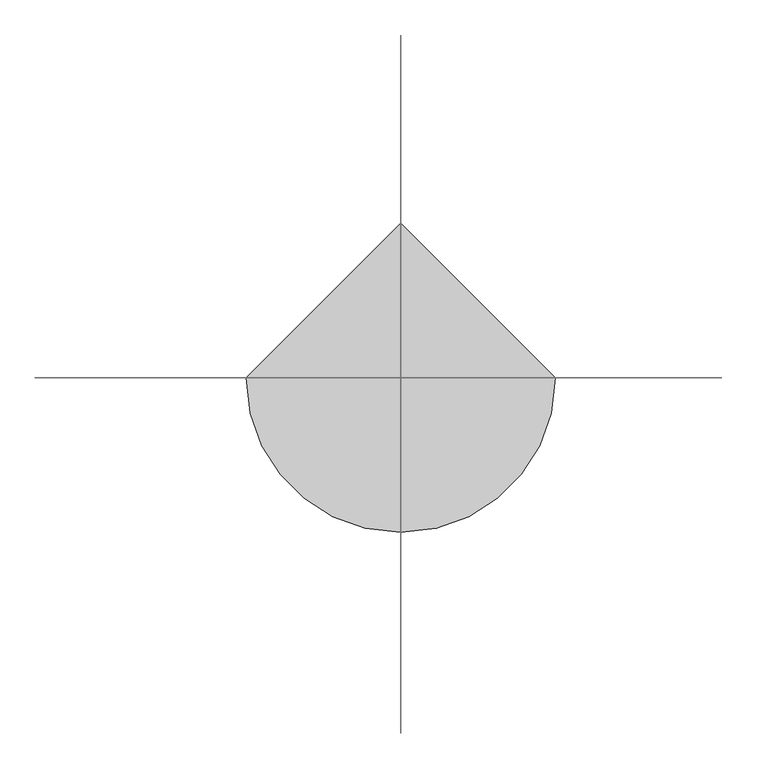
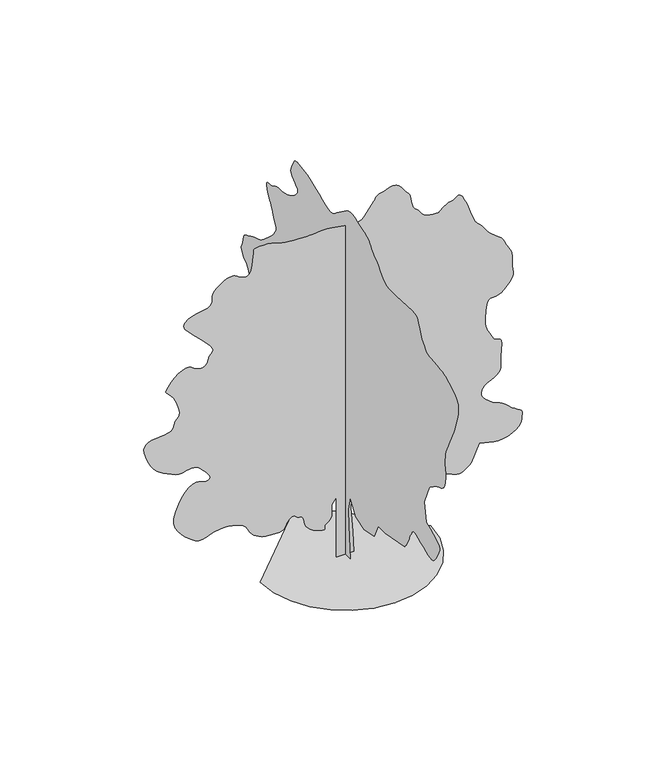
"""IFC4 building model written with IfcOpenShell, lengths in millimetres: geographic element geometry, RPC strom, listnatý : Dub šarlatový, 12,5 m."""

from ifc_helpers import new_model, si_unit, origin, place, context, project, spatial, triangles, source, transform, mapped, element, save


def geographic_element_93c3b281(model_context):
    return source(origin(), model_context, "Body", "Tessellation", [
        triangles([(0.015858, 281.3065757, 0.0), (0.015858, -269.8684294, 0.0), (0.015858, -180.9694589, 1049.0087894), (0.015858, -163.1892034, 1546.8425011), (0.015858, -269.8684294, 2009.1186447), (0.015858, -554.3465049, 1546.8425011), (0.015858, -1016.6202141, 1404.6046715), (0.015858, -1550.0141098, 1529.0636444), (0.015858, -1763.3720169, 1973.5584606), (0.015858, -2136.749081, 1973.5584606), (0.015858, -3167.9766884, 2169.1376564), (0.015858, -3205.9200119, 2214.9085545), (0.015858, -3242.9439148, 2260.9897533), (0.015858, -3278.0833397, 2307.6915539), (0.015858, -3310.4191566, 2355.333268), (0.015858, -3339.0316544, 2404.2158947), (0.015858, -3362.9790298, 2454.6615074), (0.015858, -3381.3415718, 2506.9455254), (0.015858, -3399.1756577, 2560.8152023), (0.015858, -3421.6748657, 2615.6042999), (0.015858, -3448.0584297, 2671.1747452), (0.015858, -3477.5441299, 2727.3657921), (0.015858, -3509.3744545, 2784.016404), (0.015858, -3542.74422, 2840.9887985), (0.015858, -3576.9182968, 2898.0989754), (0.015858, -3593.1896873, 2916.5536629), (0.015858, -3615.6888954, 2931.4460678), (0.015858, -3650.6216469, 2939.1679802), (0.015858, -3704.2157593, 2936.1574081), (0.015858, -3782.6993408, 2918.8517784), (0.015858, -3892.277536, 2883.6434624), (0.015858, -4039.1784531, 2826.9928505), (0.015858, -4194.2838112, 2760.32192), (0.015858, -4326.3615051, 2700.8214821), (0.015858, -4438.5366348, 2653.4328049), (0.015858, -4533.9119179, 2623.1654663), (0.015858, -4615.6127449, 2614.9836983), (0.015858, -4686.7191605, 2633.8520233), (0.015858, -4750.3792282, 2684.7570557), (0.015858, -4814.6139702, 2764.9414055), (0.015858, -4881.0090454, 2862.5459129), (0.015858, -4943.0604904, 2968.8606445), (0.015858, -4994.2184143, 3075.1753761), (0.015858, -5027.9558899, 3172.7798836), (0.015858, -5037.7692444, 3252.9871971), (0.015858, -5017.0856232, 3307.0408745), (0.015858, -4966.5480103, 3347.7418785), (0.015858, -4893.6030441, 3393.0853317), (0.015858, -4802.0199715, 3442.3358139), (0.015858, -4695.475312, 3494.688723), (0.015858, -4577.7615669, 3549.3859657), (0.015858, -4452.5785103, 3605.6229401), (0.015858, -4323.6724251, 3662.6412621), (0.015858, -4216.9899834, 4267.1598862), (0.015858, -4483.6731239, 4889.4434143), (0.015858, -4492.0845291, 4901.3252472), (0.015858, -4505.1383835, 4915.8266876), (0.015858, -4527.5457367, 4935.6371063), (0.015858, -4563.9263649, 4963.3766922), (0.015858, -4618.968354, 5001.6644714), (0.015858, -4697.35979, 5053.1903961), (0.015858, -4803.7204491, 5120.5961655), (0.015858, -4919.1131149, 5181.6592987), (0.015858, -5021.4289627, 5221.556282), (0.015858, -5110.6909561, 5254.0066269), (0.015858, -5186.8996765, 5292.6856613), (0.015858, -5250.0307068, 5351.2663879), (0.015858, -5300.1084641, 5443.4247162), (0.015858, -5337.1096939, 5582.8563217), (0.015858, -5358.5287354, 5719.806102), (0.015858, -5364.6882431, 5807.6205093), (0.015858, -5359.9769028, 5864.6385406), (0.015858, -5348.7153809, 5909.2236099), (0.015858, -5335.2941071, 5959.7152954), (0.015858, -5324.0558395, 6034.452594), (0.015858, -5319.3444992, 6151.8215927), (0.015858, -5320.9996307, 6281.3020615), (0.015858, -5328.2613968, 6388.6972504), (0.015858, -5344.533078, 6486.7842865), (0.015858, -5373.2377213, 6588.2728592), (0.015858, -5417.8227905, 6705.9406769), (0.015858, -5481.689241, 6852.542775), (0.015858, -5568.239772, 7040.8115158), (0.015858, -5650.4231277, 7210.9929886), (0.015858, -5705.2122253, 7313.6768372), (0.015858, -5742.2593826, 7377.1758682), (0.015858, -5771.2395905, 7429.7819595), (0.015858, -5801.783075, 7499.8079178), (0.015858, -5843.4950638, 7615.5682938), (0.015858, -5906.0749649, 7805.3305481), (0.015858, -5973.50457, 8024.8543579), (0.015858, -6018.8709869, 8213.9044464), (0.015858, -6035.3031235, 8376.8241531), (0.015858, -6015.9519791, 8517.9794907), (0.015858, -5954.0156433, 8641.7143799), (0.015858, -5842.6218613, 8752.3727417), (0.015858, -5674.9222137, 8854.3438431), (0.015858, -5512.2094711, 8938.1590759), (0.015858, -5405.182283, 8995.8671814), (0.015858, -5331.1112228, 9033.9479965), (0.015858, -5267.2906998, 9058.998793), (0.015858, -5191.0360519, 9077.499408), (0.015858, -5079.6422699, 9095.9994415), (0.015858, -4910.4031815, 9121.050238), (0.015858, -4728.8680412, 9140.7914749), (0.015858, -4588.0804138, 9148.4218231), (0.015858, -4476.5258858, 9157.8904312), (0.015858, -4382.713298, 9183.2394653), (0.015858, -4295.1058548, 9238.4419098), (0.015858, -4202.2126877, 9337.5172577), (0.015858, -4092.5196739, 9494.4158203), (0.015858, -3996.7304626, 9666.918663), (0.015858, -3940.1260689, 9805.5456665), (0.015858, -3903.124839, 9913.3542023), (0.015858, -3866.1009361, 9993.492334), (0.015858, -3809.4962517, 10049.0633606), (0.015858, -3713.7073311, 10083.1682556), (0.015858, -3559.1304291, 10098.9335724), (0.015858, -2705.6938591, 10045.5926422), (0.015858, -2548.3819496, 10048.3506134), (0.015858, -2420.3032848, 10047.983194), (0.015858, -2311.4836189, 10054.4641937), (0.015858, -2212.012801, 10077.7220764), (0.015858, -2111.9170212, 10127.7539062), (0.015858, -2001.2471775, 10214.4648926), (0.015858, -1870.0499531, 10347.8520996), (0.015858, -1743.6236584, 10482.5729462), (0.015858, -1648.9170845, 10574.3626923), (0.015858, -1578.4726925, 10634.7590057), (0.015858, -1524.8211708, 10675.2542084), (0.015858, -1480.502655, 10707.3371338), (0.015858, -1438.0481243, 10742.5221954), (0.015858, -1389.9972782, 10792.3470612), (0.015858, -1343.8631756, 10851.1806793), (0.015858, -1306.1244907, 10905.9703583), (0.015858, -1267.7675297, 10957.0358459), (0.015858, -1219.7672619, 11004.6550323), (0.015858, -1153.1057058, 11049.1941742), (0.015858, -1058.7623365, 11090.9288361), (0.015858, -927.7212799, 11130.1589996), (0.015858, -780.6112186, 11173.3889191), (0.015858, -643.4522942, 11221.2825073), (0.015858, -515.3115692, 11265.4542297), (0.015858, -395.2605031, 11297.4918091), (0.015858, -282.361435, 11309.0050598), (0.015858, -175.6817548, 11291.5851929), (0.015858, -74.2902328, 11236.8420227), (0.015858, 459.1044986, 10845.6879913), (0.015858, 516.8490844, 10793.1284088), (0.015858, 572.7298305, 10745.2336578), (0.015858, 633.5838558, 10706.647641), (0.015858, 706.2597977, 10682.0793732), (0.015858, 797.5949203, 10676.172757), (0.015858, 914.4330648, 10693.5937866), (0.015858, 1063.6184355, 10739.006131), (0.015858, 1232.9152966, 10806.4345734), (0.015858, 1403.4556137, 10882.275293), (0.015858, 1572.1296204, 10959.6787079), (0.015858, 1735.8280586, 11031.7731445), (0.015858, 1891.4415253, 11091.7566925), (0.015858, 2035.8558208, 11132.7565155), (0.015858, 2165.966193, 11147.9474487), (0.015858, 2284.3073708, 11156.243454), (0.015858, 2394.2417942, 11175.1120697), (0.015858, 2493.9375984, 11195.5201263), (0.015858, 2581.4761505, 11208.4821259), (0.015858, 2655.0414276, 11204.9660614), (0.015858, 2712.7262787, 11175.9399261), (0.015858, 2752.6918625, 11112.3717133), (0.015858, 2788.4059616, 11032.5091461), (0.015858, 2829.4057846, 10958.8520142), (0.015858, 2867.9237823, 10888.9179108), (0.015858, 2896.1915337, 10820.2244293), (0.015858, 2906.395562, 10750.3124176), (0.015858, 2890.7907005, 10676.6552856), (0.015858, 2841.6094002, 10596.7706268), (0.015858, 2766.3433548, 10523.5727692), (0.015858, 2685.7683311, 10466.2320831), (0.015858, 2612.0649811, 10416.682782), (0.015858, 2557.3221016, 10366.8125702), (0.015858, 2533.6965088, 10308.5533356), (0.015858, 2553.2772903, 10233.8148743), (0.015858, 2628.2445168, 10134.4872162), (0.015858, 2731.7553497, 10035.5269775), (0.015858, 2829.3598572, 9963.340686), (0.015858, 2921.6786407, 9911.9519623), (0.015858, 3009.3320114, 9875.5262787), (0.015858, 3092.9405708, 9848.0860931), (0.015858, 3173.1475937, 9823.7933899), (0.015858, 3250.5280449, 9796.6752777), (0.015858, 3327.8166412, 9775.7846924), (0.015858, 3407.2882439, 9768.8897644), (0.015858, 3488.9204704, 9768.223526), (0.015858, 3572.7357033, 9765.9934296), (0.015858, 3658.7342331, 9754.43367), (0.015858, 3746.9163506, 9725.7522812), (0.015858, 3837.2585106, 9672.2270599), (0.015858, 3930.6344971, 9624.6776367), (0.015858, 4022.4245338, 9607.6251892), (0.015858, 4104.5852165, 9603.6260147), (0.015858, 4169.0266319, 9595.2835007), (0.015858, 4207.6364845, 9565.1771988), (0.015858, 4212.3478249, 9495.8634064), (0.015858, 4175.0939941, 9369.9681839), (0.015858, 4120.0290413, 9237.4768524), (0.015858, 4074.317878, 9148.214859), (0.015858, 4034.1912575, 9084.439682), (0.015858, 3995.949115, 9028.4553085), (0.015858, 3955.8224945, 8962.5203796), (0.015858, 3910.0883675, 8868.9144653), (0.015858, 3855.046669, 8729.8962067), (0.015858, 3796.8789986, 8593.1533905), (0.015858, 3746.824205, 8506.7871506), (0.015858, 3708.5593895, 8453.6985306), (0.015858, 3685.8532173, 8416.7897369), (0.015858, 3682.428717, 8378.961232), (0.015858, 3702.0324623, 8323.0692947), (0.015858, 3748.3642273, 8232.0603149), (0.015858, 3830.846402, 8111.427562), (0.015858, 3946.5838142, 7983.3493332), (0.015858, 4081.0055511, 7855.569342), (0.015858, 4219.4491356, 7735.8789734), (0.015858, 4347.3439453, 7632.0463577), (0.015858, 4450.0275032, 7551.8622986), (0.015858, 4512.9062233, 7503.0710907), (0.015858, 4568.7295601, 7472.551442), (0.015858, 4652.5447929, 7441.7091385), (0.015858, 4753.1601631, 7410.2471054), (0.015858, 4859.3830399, 7377.8421066), (0.015858, 4959.99841, 7344.1964859), (0.015858, 5043.8136429, 7309.0114243), (0.015858, 5099.6369797, 7271.9415939), (0.015858, 5146.3823822, 7241.1452179), (0.015858, 5205.9054932, 7219.3814301), (0.015858, 5271.3125473, 7198.2379532), (0.015858, 5335.7998901, 7169.3036728), (0.015858, 5392.5191025, 7124.2128204), (0.015858, 5434.5996735, 7054.5316086), (0.015858, 5455.2373672, 6951.8942688), (0.015858, 5472.1287781, 6848.796492), (0.015858, 5501.1554947, 6775.8747803), (0.015858, 5532.6634552, 6721.9129578), (0.015858, 5557.0474319, 6675.7192657), (0.015858, 5564.6085983, 6626.1240372), (0.015858, 5545.740564, 6561.8895859), (0.015858, 5490.7904297, 6471.8462448), (0.015858, 5422.5800583, 6387.5019745), (0.015858, 5367.4229599, 6337.0794708), (0.015858, 5320.9763763, 6304.3762344), (0.015858, 5278.8731323, 6273.212439), (0.015858, 5236.7931427, 6227.4326752), (0.015858, 5190.3465591, 6150.8792084), (0.015858, 5135.1900421, 6027.3512833), (0.015858, 5075.0687119, 5903.6158127), (0.015858, 5019.9121948, 5825.6153412), (0.015858, 4974.7068146, 5775.9050034), (0.015858, 4944.439476, 5737.0655136), (0.015858, 4934.074411, 5691.7217697), (0.015858, 4948.5758514, 5622.4085587), (0.015858, 4992.954538, 5511.7501968), (0.015858, 5051.9032654, 5390.7035156), (0.015858, 5107.4045288, 5296.7301819), (0.015858, 5160.4472214, 5222.0388107), (0.015858, 5211.9039642, 5158.8385986), (0.015858, 5262.7630692, 5099.3840881), (0.015858, 5313.920993, 5035.8844757), (0.015858, 5366.3201202, 4960.5727936), (0.015858, 5427.1303619, 4886.2947693), (0.015858, 5497.8917404, 4825.691201), (0.015858, 5571.1355255, 4770.69543), (0.015858, 5639.4150787, 4713.1942886), (0.015858, 5695.2384155, 4645.1446632), (0.015858, 5731.1588974, 4558.4107132), (0.015858, 5739.7083755, 4444.9484528), (0.015858, 5746.9015411, 4355.8472054), (0.015858, 5773.3999237, 4326.45336), (0.015858, 5803.6213348, 4325.0514107), (0.015858, 5822.0300949, 4319.9264328), (0.015858, 5813.0440155, 4279.3402473), (0.015858, 5761.1733444, 4171.577639), (0.015858, 5650.8138016, 3964.9004288), (0.015858, 5535.4214264, 3733.0811485), (0.015858, 5465.7628876, 3562.5546387), (0.015858, 5422.2120575, 3440.5202271), (0.015858, 5385.2108276, 3354.2688057), (0.015858, 5335.1330704, 3291.0223755), (0.015858, 5252.3980042, 3238.0488647), (0.015858, 5117.4248474, 3182.5932381), (0.015858, 4961.5837784, 3137.5945313), (0.015858, 4824.4273247, 3118.7262062), (0.015858, 4698.4629204, 3117.2783295), (0.015858, 4576.244799, 3124.5406769), (0.015858, 4450.2803947, 3131.7800606), (0.015858, 4313.1236504, 3130.3321838), (0.015858, 4157.3058357, 3111.4638588), (0.015858, 4001.9016586, 3094.5721573), (0.015858, 3867.6406677, 3098.203331), (0.015858, 3749.5592125, 3112.4062431), (0.015858, 3642.6698067, 3127.2297569), (0.015858, 3542.0087997, 3132.7224449), (0.015858, 3442.5887054, 3118.9331703), (0.015858, 3339.4223282, 3075.9107964), (0.015858, 3240.6917267, 3030.1766693), (0.015858, 3159.0368271, 3006.2292938), (0.015858, 3096.3647804, 2990.9924332), (0.015858, 3054.5376823, 2971.4116516), (0.015858, 3035.4164658, 2934.3877487), (0.015858, 3040.8632263, 2866.9125069), (0.015858, 3072.7391876, 2755.8634712), (0.015858, 3124.1500031, 2637.8968346), (0.015858, 3185.8337379, 2554.4263481), (0.015858, 3256.089624, 2499.7520691), (0.015858, 3333.1712563, 2468.0827812), (0.015858, 3415.3778664, 2453.6731956), (0.015858, 3501.0089767, 2450.7544785), (0.015858, 3588.3405647, 2453.6043045), (0.015858, 3926.1757576, 2080.2387222), (0.015858, 3952.6511765, 2038.1976837), (0.015858, 3978.046138, 1995.3822739), (0.015858, 4001.281057, 1951.0108543), (0.015858, 4021.2295486, 1904.3045483), (0.015858, 4036.8341194, 1854.4910191), (0.015858, 4046.9922203, 1800.7890644), (0.015858, 4050.623394, 1742.4216969), (0.015858, 4050.0027924, 1681.5653824), (0.015858, 4045.6591621, 1621.3318497), (0.015858, 4033.8235474, 1562.3438805), (0.015858, 4010.8185562, 1505.2198963), (0.015858, 3972.8752327, 1450.5847137), (0.015858, 3916.2705482, 1399.0590797), (0.015858, 3837.2585106, 1351.2657761), (0.015858, 3761.9006104, 1310.6772652), (0.015858, 3708.9270996, 1279.1091339), (0.015858, 3663.7214287, 1254.6953625), (0.015858, 3611.6670479, 1235.5674603), (0.015858, 3538.1706619, 1219.8615875), (0.015858, 3428.5924667, 1205.7092537), (0.015858, 3268.3162033, 1191.2466917), (0.015858, 3086.0000061, 1193.3196756), (0.015858, 2918.0015396, 1225.2507935), (0.015858, 2761.1954132, 1279.8883015), (0.015858, 2612.4789093, 1350.072971), (0.015858, 2468.7493103, 1428.6575638), (0.015858, 2326.8585526, 1508.48554), (0.015858, 2183.7450497, 1582.4025398), (0.015858, 2056.1236244, 1649.6341919), (0.015858, 1957.4274685, 1713.1333683), (0.015858, 1879.5689941, 1771.3468208), (0.015858, 1814.4633751, 1822.7162144), (0.015858, 1754.0230236, 1865.6878647), (0.015858, 1690.1606426, 1898.7085236), (0.015858, 1614.7911152, 1920.2195652), (0.015858, 1531.904314, 1938.3616264), (0.015858, 1450.2629311, 1960.8586544), (0.015858, 1368.9319942, 1985.5344738), (0.015858, 1286.9804558, 2010.2079678), (0.015858, 1203.4708002, 2032.7049957), (0.015858, 1117.4744505, 2050.847057), (0.015858, 1028.0583967, 2062.4575401), (0.015858, 936.6198647, 2068.5224316), (0.015858, 845.1791525, 2071.7882206), (0.015858, 753.7406204, 2072.7213032), (0.015858, 662.302161, 2071.7882206), (0.015858, 570.8636653, 2069.4555141), (0.015858, 479.4228805, 2066.1897251), (0.015858, 387.9844211, 2062.4575401), (0.015858, 210.1869342, 1795.7605923), (0.015858, 174.6268773, 1386.8258148), (257.8074832, 0.0005523, 0.0084686), (-275.586358, 0.0005523, 0.0084686), (-275.586358, 0.0004372, 1955.7865803), (-417.8265312, 0.0004372, 1760.2097099), (-417.8265312, 0.0004602, 1546.8518028), (-414.5608149, 0.0004602, 1497.3485744), (-414.5608149, 0.0004602, 1447.9992611), (-421.0922839, 0.0004602, 1398.962574), (-437.4186856, 0.0004833, 1350.3924282), (-466.8103872, 0.0004833, 1302.4450642), (-512.5307796, 0.0004833, 1255.2722168), (-577.8433265, 0.0004833, 1209.0347048), (-629.0058649, 0.0004833, 1161.0345097), (-643.1581261, 0.0004833, 1112.4115328), (-639.8924097, 0.0004833, 1069.0789307), (-638.8030867, 0.0004833, 1036.938596), (-659.4868532, 0.0004833, 1021.9060833), (-721.5336473, 0.0004833, 1029.8900436), (-844.540238, 0.0004833, 1066.7968752), (-984.8613968, 0.0004833, 1124.2839912), (-1089.7259989, 0.0004833, 1189.2334425), (-1165.0426226, 0.0004833, 1260.4063511), (-1216.724497, 0.0004833, 1336.5527206), (-1250.6781658, 0.0004602, 1416.4311298), (-1272.8121346, 0.0004602, 1498.7986313), (-1289.037307, 0.0004602, 1582.4118416), (-1293.1832748, 0.0004602, 1605.1662666), (-1299.3516483, 0.0004602, 1627.3002354), (-1309.562653, 0.0004602, 1648.1931461), (-1325.8407291, 0.0004602, 1667.2153862), (-1350.2015968, 0.0004602, 1683.7508595), (-1384.674638, 0.0004602, 1697.1769295), (-1431.2752819, 0.0004602, 1706.8708145), (-1477.8759258, 0.0004602, 1722.8340843), (-1514.5229622, 0.0004602, 1749.6862244), (-1546.5070564, 0.0004372, 1778.7148304), (-1579.111607, 0.0004372, 1801.2118584), (-1617.6271339, 0.0004372, 1808.4697002), (-1667.3371811, 0.0004372, 1791.7778412), (-1733.5322685, 0.0004602, 1742.4285278), (-1791.7433956, 0.0004602, 1673.3837597), (-1824.7639091, 0.0004602, 1605.8925304), (-1848.7638977, 0.0004602, 1543.6893505), (-1879.916066, 0.0004602, 1490.5045155), (-1934.3971882, 0.0004602, 1450.0745705), (-2028.3751728, 0.0004602, 1426.1250149), (-2178.0270847, 0.0004602, 1422.3926846), (-2343.3825439, 0.0004602, 1433.3827114), (-2477.6435349, 0.0004602, 1451.5247726), (-2586.6929832, 0.0004602, 1477.4438301), (-2676.4837234, 0.0004602, 1511.75816), (-2752.8988266, 0.0004602, 1555.0930149), (-2821.8219452, 0.0004602, 1608.0711765), (-2889.2280052, 0.0004602, 1671.3107758), (-2946.3844002, 0.0004602, 1740.6658447), (-2987.4071869, 0.0004372, 1810.3357201), (-3022.1789017, 0.0004372, 1878.447551), (-3060.6966087, 0.0004372, 1943.1395325), (-3112.8887718, 0.0004372, 2002.5434647), (-3188.7294914, 0.0004372, 2054.7953625), (-3298.1466499, 0.0004372, 2098.0267353), (-3408.1614464, 0.0004372, 2130.8886829), (-3487.9780861, 0.0004142, 2154.1119747), (-3551.0175522, 0.0004142, 2168.9376686), (-3610.6330994, 0.0004142, 2176.609148), (-3680.1765289, 0.0004142, 2178.3718311), (-3773.069696, 0.0004142, 2175.4692467), (-3902.665274, 0.0004142, 2169.1444874), (-4045.1536697, 0.0004142, 2146.7003632), (-4171.8075668, 0.0004372, 2104.9719509), (-4288.4870728, 0.0004372, 2059.5112083), (-4401.1217674, 0.0004372, 2025.8700932), (-4515.6412308, 0.0004372, 2019.5983829), (-4637.9052795, 0.0004372, 2056.2454193), (-4773.8670387, 0.0004142, 2151.3656307), (-4916.1255066, 0.0004142, 2278.571093), (-5047.4674896, 0.0004142, 2404.8364964), (-5159.2292725, 0.0003912, 2535.7879509), (-5242.6765045, 0.0003912, 2676.9892159), (-5289.1230881, 0.0003912, 2834.0482338), (-5289.8585083, 0.0003682, 3012.5725113), (-5236.1495773, 0.0003682, 3218.1463005), (-5146.2672729, 0.0003452, 3425.4900398), (-5046.1117584, 0.0003452, 3603.3018608), (-4938.5101868, 0.0003222, 3748.1342995), (-4826.2429115, 0.0003222, 3856.5634369), (-4712.0911583, 0.0003222, 3925.1877365), (-4598.8820801, 0.0003222, 3950.6056618), (-4489.3957397, 0.0003222, 3929.3473663), (-4386.1375076, 0.0003222, 3893.5873398), (-4294.715181, 0.0003222, 3878.3272247), (-4222.5518532, 0.0003222, 3884.5553329), (-4177.1392181, 0.0003222, 3913.1681213), (-4165.9471687, 0.0003222, 3965.1073929), (-4196.4211807, 0.0003222, 4041.3155319), (-4276.0308563, 0.0002992, 4142.7122498), (-4368.878096, 0.0002992, 4244.4074959), (-4439.6397652, 0.0002992, 4322.7762589), (-4496.7040146, 0.0002992, 4380.6218559), (-4548.4825401, 0.0002992, 4420.7484764), (-4603.3864563, 0.0002992, 4445.9367645), (-4669.7815315, 0.0002761, 4459.0135826), (-4756.101844, 0.0002761, 4462.7366112), (-4844.6284172, 0.0002992, 4454.3940971), (-4917.9410934, 0.0002992, 4435.158062), (-4984.7038788, 0.0002992, 4413.7619843), (-5053.6496704, 0.0002992, 4398.8695793), (-5133.4663101, 0.0002992, 4399.2372894), (-5232.8864044, 0.0002992, 4423.552375), (-5360.6204681, 0.0002761, 4480.5247696), (-5496.1680084, 0.0002761, 4548.6892136), (-5615.5368851, 0.0002761, 4607.8219414), (-5722.1733994, 0.0002761, 4668.5403282), (-5819.4558334, 0.0002761, 4741.3704758), (-5910.8554871, 0.0002761, 4836.8835411), (-5999.7494797, 0.0002531, 4965.6974808), (-6089.586438, 0.0002531, 5138.3846146), (-6163.8644623, 0.0002301, 5317.5748398), (-6204.8642853, 0.0002301, 5461.6265121), (-6214.1486023, 0.0002301, 5574.5829895), (-6193.258017, 0.0002071, 5660.4667007), (-6143.7552246, 0.0002071, 5723.3454208), (-6067.2017578, 0.0002071, 5767.2409973), (-5965.1161285, 0.0002071, 5796.2212051), (-5844.5984848, 0.0002071, 5812.8603058), (-5717.2550949, 0.0002071, 5822.6736603), (-5591.4284729, 0.0002071, 5834.0037827), (-5475.5762421, 0.0002071, 5855.3077148), (-5378.0868439, 0.0002071, 5894.975061), (-5307.324884, 0.0002071, 5961.3698456), (-5271.7032211, 0.0001841, 6062.9270187), (-5245.3885483, 0.0001841, 6160.9913818), (-5204.7334717, 0.0001841, 6224.8584137), (-5161.6192429, 0.0001841, 6274.7292068), (-5127.8125854, 0.0001841, 6330.8054352), (-5115.1726593, 0.0001611, 6413.3335373), (-5135.4888611, 0.0001611, 6542.5157684), (-5200.5965149, 0.0001611, 6738.5520584), (-5292.8001892, 0.0001381, 6931.6466675), (-5380.9825974, 0.0001381, 7053.1985504), (-5456.7082077, 0.0001381, 7125.3162415), (-5511.6118332, 0.0001151, 7170.039093), (-5537.2602676, 0.0001151, 7209.4762207), (-5525.2865799, 0.0001151, 7265.7361588), (-5467.2796555, 0.0001151, 7360.8588409), (-5373.7888504, 0.0001151, 7479.5608978), (-5265.6588226, 9.21e-05, 7587.6909256), (-5150.0594833, 9.21e-05, 7679.0213974), (-5034.1380707, 9.21e-05, 7747.3468781), (-4925.0883316, 9.21e-05, 7786.4165863), (-4830.0118675, 9.21e-05, 7790.04776), (-4756.101844, 9.21e-05, 7752.012291), (-4683.6396973, 9.21e-05, 7695.2924973), (-4594.3774132, 9.21e-05, 7651.0295013), (-4497.6463989, 9.21e-05, 7625.1055023), (-4402.7766083, 9.21e-05, 7623.4509521), (-4319.1221214, 9.21e-05, 7651.9718857), (-4255.9905098, 9.21e-05, 7716.5510834), (-4222.7125992, 9.21e-05, 7823.1184158), (-4192.2156235, 9.21e-05, 7924.7220978), (-4144.3208725, 6.9e-05, 7984.9579559), (-4098.6097092, 6.9e-05, 8025.5897781), (-4074.6626244, 6.9e-05, 8068.4057693), (-4092.082782, 6.9e-05, 8135.1679733), (-4170.451545, 6.9e-05, 8247.6651764), (-4329.3950409, 4.6e-05, 8427.6373306), (-4528.6947945, 4.6e-05, 8630.935968), (-4706.8513618, 2.3e-05, 8802.1976074), (-4851.4311996, 2.3e-05, 8946.4097351), (-4949.954837, 2.3e-05, 9068.5360016), (-4990.0355301, 0.0, 9173.5638931), (-4959.193808, 0.0, 9266.4570602), (-4844.9961273, 0.0, 9352.1797348), (-4692.6943771, 0.0, 9418.2303543), (-4556.2733437, 0.0, 9455.966423), (-4436.3303741, 0.0, 9476.2826248), (-4333.4857796, -2.3e-05, 9490.0718994), (-4248.3604523, -2.3e-05, 9508.2045135), (-4181.5976669, -2.3e-05, 9541.5978241), (-4133.7953522, -2.3e-05, 9601.098262), (-4109.9627953, -2.3e-05, 9671.4916397), (-4106.3316216, -2.3e-05, 9733.1756653), (-4110.4685783, -2.3e-05, 9790.5151886), (-4109.9627953, -2.3e-05, 9847.8558746), (-4092.3356735, -4.6e-05, 9909.5393188), (-4045.1536697, -4.6e-05, 9979.9338593), (-3956.0064949, -4.6e-05, 10063.3810913), (-3846.8878647, -4.6e-05, 10145.9551208), (-3747.1000603, -4.6e-05, 10210.1895721), (-3655.1030594, -6.9e-05, 10255.1193878), (-3569.3114937, -6.9e-05, 10279.848111), (-3488.1850502, -6.9e-05, 10283.4339386), (-3410.1610336, -6.9e-05, 10264.9106506), (-3333.7229668, -4.6e-05, 10223.4050446), (-3254.9176025, -4.6e-05, 10172.6604675), (-3173.6533768, -4.6e-05, 10133.1082306), (-3093.9285919, -4.6e-05, 10113.7570862), (-3019.7886406, -4.6e-05, 10123.6622955), (-2955.3012978, -4.6e-05, 10171.8105194), (-2904.511084, -6.9e-05, 10267.2546936), (-2871.4398468, -6.9e-05, 10418.9814789), (-2851.6983192, -6.9e-05, 10581.9006042), (-2837.5416252, -9.21e-05, 10707.7964081), (-2828.0500534, -9.21e-05, 10801.0569946), (-2822.3044739, -9.21e-05, 10866.0041931), (-2819.3398293, -9.21e-05, 10907.0040161), (-2818.2596626, -9.21e-05, 10928.4236389), (-2818.0986259, -9.21e-05, 10934.5825653), (-2794.7259247, -9.21e-05, 10938.213739), (-2731.2268936, -9.21e-05, 10946.2109253), (-2637.5520882, -9.21e-05, 10954.1860199), (-2523.6764809, -9.21e-05, 10957.8171936), (-2399.5275181, -9.21e-05, 10952.7384338), (-2275.0640396, -9.21e-05, 10934.5825653), (-2160.2482281, -9.21e-05, 10899.0289215), (-2054.9675903, -9.21e-05, 10859.4778473), (-1949.3767971, -9.21e-05, 10830.8191315), (-1838.8104355, -9.21e-05, 10810.8470947), (-1718.6007671, -9.21e-05, 10797.4258209), (-1584.0871754, -9.21e-05, 10788.3705597), (-1430.5995964, -9.21e-05, 10781.4767944), (-1253.4750881, -9.21e-05, 10774.5818665), (-1082.5211334, -9.21e-05, 10773.5935547), (-941.7333607, -9.21e-05, 10781.9360687), (-817.740929, -9.21e-05, 10793.7027924), (-697.1704542, -9.21e-05, 10802.9871094), (-566.64877, -9.21e-05, 10803.8614746), (-412.7980954, -9.21e-05, 10790.4390381), (-222.2481166, -9.21e-05, 10756.7934174), (-29.6244863, -9.21e-05, 10716.7819061), (125.6770672, -9.21e-05, 10689.2033569), (249.8763903, -9.21e-05, 10675.6216278), (349.1954006, -9.21e-05, 10677.5749969), (429.8530137, -9.21e-05, 10696.6726685), (498.0681813, -9.21e-05, 10734.4098999), (560.0644335, -9.21e-05, 10792.3470612), (826.7613813, -0.0001151, 11130.1589996), (866.7798689, -0.0001151, 11182.2593079), (898.7110594, -0.0001151, 11231.2574799), (927.5305212, -0.0001151, 11276.1872955), (958.218401, -0.0001151, 11316.152298), (995.7480143, -0.0001151, 11350.2118469), (1045.0972549, -0.0001151, 11377.4229767), (1111.2394386, -0.0001151, 11396.865976), (1192.3107256, -0.0001381, 11419.1576385), (1280.8465279, -0.0001381, 11448.9197754), (1373.425034, -0.0001381, 11476.1762512), (1466.6285019, -0.0001381, 11490.999765), (1557.0303967, -0.0001381, 11483.4385986), (1641.2113049, -0.0001381, 11443.5189423), (1715.7534119, -0.0001151, 11361.3123322), (1781.9461739, -0.0001151, 11267.5459625), (1842.5427658, -0.0001151, 11194.600415), (1896.2976242, -0.0001151, 11135.031958), (1941.9651855, -0.0001151, 11081.3910461), (1978.3020664, -0.0001151, 11026.1886017), (2004.0648834, -9.21e-05, 10961.9541504), (2018.008073, -9.21e-05, 10881.2416351), (2027.7018127, -9.21e-05, 10797.587439), (2041.1278828, -9.21e-05, 10727.9289001), (2057.6635014, -9.21e-05, 10669.9219757), (2076.6855961, -6.9e-05, 10621.2458771), (2097.5763268, -6.9e-05, 10579.5565613), (2119.7102955, -6.9e-05, 10542.5553314), (2142.467046, -6.9e-05, 10507.8760529), (2165.4811935, -6.9e-05, 10492.2711914), (2189.4307491, -6.9e-05, 10474.4827423), (2215.2441444, -6.9e-05, 10452.351535), (2243.8589676, -6.9e-05, 10423.6928192), (2276.203941, -6.9e-05, 10386.3241699), (2313.2072056, -6.9e-05, 10338.0619995), (2355.8157967, -6.9e-05, 10276.7459747), (2418.970372, -4.6e-05, 10218.4634857), (2508.2323654, -4.6e-05, 10178.5670837), (2610.5482132, -4.6e-05, 10153.562796), (2712.864061, -4.6e-05, 10140.0950134), (2802.1263451, -4.6e-05, 10134.6941803), (2865.2809204, -4.6e-05, 10133.9814331), (2889.2280052, -4.6e-05, 10134.5104706), (2901.5005119, -4.6e-05, 10147.3108521), (2935.2609512, -4.6e-05, 10180.3134888), (2985.7982735, -4.6e-05, 10225.4735229), (3048.4703201, -6.9e-05, 10274.6542419), (3118.5884239, -6.9e-05, 10319.8142761), (3191.53339, -6.9e-05, 10352.8390045), (3262.5935875, -6.9e-05, 10365.6405487), (3326.2995827, -6.9e-05, 10381.2454102), (3382.536557, -6.9e-05, 10416.4304718), (3434.7516838, -6.9e-05, 10453.7991211), (3486.3232452, -6.9e-05, 10475.9535828), (3540.6987053, -6.9e-05, 10465.4274811), (3601.3022736, -6.9e-05, 10404.8242035), (3671.5351959, -6.9e-05, 10276.7459747), (3737.6773796, -4.6e-05, 10126.2598114), (3787.0197166, -4.6e-05, 10004.7079285), (3824.5494026, -4.6e-05, 9903.9780304), (3855.2303787, -2.3e-05, 9816.0252594), (3884.0498405, -2.3e-05, 9732.7158096), (3915.994693, -2.3e-05, 9646.0048233), (3956.0064949, -2.3e-05, 9547.7567505), (3997.1214272, 0.0, 9461.5515472), (4032.3067795, 0.0, 9406.7624496), (4066.5730019, 0.0, 9369.0949814), (4104.8837448, 0.0, 9334.2081573), (4152.2038216, 0.0, 9287.8075012), (4213.5198463, 0.0, 9215.5979553), (4293.8190147, 0.0, 9103.2617889), (4392.6644348, 2.3e-05, 8978.239769), (4501.1624634, 2.3e-05, 8873.7409149), (4611.5220062, 2.3e-05, 8784.1568481), (4715.9752235, 4.6e-05, 8703.9268616), (4806.7310211, 4.6e-05, 8627.4199036), (4876.0448135, 4.6e-05, 8549.0281769), (4916.1255066, 4.6e-05, 8463.1903931), (4947.588121, 4.6e-05, 8379.0071594), (4991.4836975, 6.9e-05, 8303.5344406), (5040.6876709, 6.9e-05, 8228.0617218), (5088.0080383, 6.9e-05, 8143.8784882), (5126.319072, 6.9e-05, 8042.2980606), (5148.4502792, 9.21e-05, 7914.5639969), (5147.2555847, 9.21e-05, 7752.012291), (5144.8191055, 9.21e-05, 7595.7805481), (5158.2409607, 0.0001151, 7481.835759), (5172.9034378, 0.0001151, 7393.723114), (5174.2132416, 0.0001151, 7314.9174591), (5147.5084763, 0.0001151, 7228.9878204), (5078.2173569, 0.0001381, 7119.3869522), (4951.678569, 0.0001381, 6969.6821365), (4801.5141884, 0.0001381, 6843.9932968), (4671.252372, 0.0001381, 6793.5481201), (4561.1913574, 0.0001381, 6782.6086716), (4471.6764725, 0.0001381, 6775.4149246), (4402.9832817, 0.0001611, 6736.162088), (4355.4565315, 0.0001611, 6629.1348999), (4329.3720772, 0.0001611, 6418.5279877), (4319.6276138, 0.0001841, 6185.4672134), (4321.0984543, 0.0001841, 6021.4446671), (4334.0374901, 0.0002071, 5906.281929), (4358.8351044, 0.0002071, 5819.708725), (4395.7441887, 0.0002071, 5741.5472168), (4445.0865257, 0.0002071, 5651.5492218), (4507.1838982, 0.0002301, 5529.5380646), (4578.0374222, 0.0002301, 5423.4300064), (4649.5342209, 0.0002301, 5375.167836), (4715.722332, 0.0002301, 5355.518454), (4770.7183937, 0.0002301, 5335.2481796), (4808.6157898, 0.0002301, 5285.1244949), (4823.4849403, 0.0002531, 5175.8910461), (4809.4430649, 0.0002531, 4978.3606613), (4790.3680664, 0.0002761, 4760.5832565), (4787.4493492, 0.0002761, 4601.2950142), (4790.7817039, 0.0002761, 4487.0976242), (4790.3680664, 0.0002992, 4404.6381226), (4776.2570091, 0.0002992, 4340.5181992), (4738.5206497, 0.0002992, 4281.3627983), (4667.2075607, 0.0002992, 4213.8186653), (4581.0479942, 0.0002992, 4150.4800896), (4504.8395645, 0.0002992, 4107.6646797), (4437.6631416, 0.0002992, 4077.6043053), (4378.5766319, 0.0003222, 4052.507872), (4326.6370697, 0.0003222, 4024.6307945), (4280.9259064, 0.0003222, 3986.1590149), (4240.4777939, 0.0003222, 3929.3473663), (4208.348941, 0.0003222, 3863.5728928), (4190.1930725, 0.0003222, 3801.5214478), (4189.1588333, 0.0003222, 3740.4123871), (4208.348941, 0.0003452, 3677.4185577), (4250.8425682, 0.0003452, 3609.7825699), (4319.7886505, 0.0003452, 3534.6545975), (4418.2893242, 0.0003452, 3449.2993423), (4522.6736504, 0.0003452, 3374.4928619), (4611.2231873, 0.0003452, 3325.4952713), (4689.7986237, 0.0003682, 3291.1371941), (4764.3525032, 0.0003682, 3260.2033264), (4840.7446426, 0.0003682, 3221.4789459), (4924.9278763, 0.0003682, 3163.7711311), (5022.7846939, 0.0003682, 3075.9107964), (5126.6864914, 0.0003682, 2985.1549988), (5222.475412, 0.0003682, 2920.2078003), (5306.4516815, 0.0003912, 2872.0374847), (5374.869017, 0.0003912, 2831.6582634), (5424.0049713, 0.0003912, 2790.0378387), (5450.1353531, 0.0003912, 2738.1444946), (5449.5144608, 0.0003912, 2666.9691879), (5439.3104324, 0.0003912, 2586.1645271), (5433.128833, 0.0004142, 2510.3238075), (5421.9824203, 0.0004142, 2437.9075882), (5396.839769, 0.0004142, 2367.3757015), (5348.6927078, 0.0004142, 2297.1289719), (5268.5086487, 0.0004142, 2225.6458351), (5147.2555847, 0.0004142, 2151.3656307), (5002.4690735, 0.0004372, 2091.2355801), (4857.7052353, 0.0004372, 2060.0306534), (4712.9187241, 0.0004372, 2052.9291973), (4568.1319221, 0.0004372, 2065.1095585), (4423.3683746, 0.0004372, 2091.7526997), (4278.5818634, 0.0004372, 2128.0390022), (4133.7953522, 0.0004142, 2169.1444874), (3884.8771156, 0.0004602, 1617.9718803), (3823.8828735, 0.0004602, 1565.0972008), (3762.543885, 0.0004602, 1515.0239491), (3700.6075493, 0.0004602, 1470.5491928), (3637.7288292, 0.0004602, 1434.469709), (3573.6089058, 0.0004602, 1409.5893963), (3507.9265778, 0.0004602, 1398.7051769), (3440.3824448, 0.0004602, 1404.6138279), (3385.3404556, 0.0004602, 1418.0375725), (3350.4998497, 0.0004602, 1429.2873219), (3325.6333443, 0.0004602, 1440.5370712), (3300.4450562, 0.0004602, 1453.9608158), (3264.6620659, 0.0004602, 1471.7419979), (3208.0573814, 0.0004602, 1496.0522873), (3120.3580833, 0.0004602, 1529.0728008), (3006.1144753, 0.0004602, 1577.0201649), (2881.2991287, 0.0004602, 1640.5194866), (2752.7380806, 0.0004602, 1713.3494888), (2627.3021324, 0.0004372, 1789.2888943), (2511.794648, 0.0004372, 1862.1187511), (2413.1099739, 0.0004372, 1925.6180729), (2338.0507473, 0.0004372, 1973.5677624), (2274.4940163, 0.0004372, 2015.8132942), (2206.2788486, 0.0004372, 2065.5233414), (2134.1727848, 0.0004372, 2121.4568459), (2058.9596432, 0.0004142, 2182.3637386), (1981.4114697, 0.0004142, 2247.0029617), (1902.3097572, 0.0004142, 2314.1264809), (1822.4312027, 0.0004142, 2382.4978889), (1804.6500206, 0.0003912, 2649.2039932), (1449.0541386, 0.0003912, 2684.7570557), (808.9801992, 0.0003912, 2631.4158348), (382.2664925, 0.0004142, 2400.2860474), (204.4676249, 0.0004372, 1973.5677624), (168.9082765, 0.0004602, 1475.73158), (222.2471901, 0.0005063, 657.8620251), (-2625.371727, 0.0, 0.0206192), (-2555.9660797, -601.5630269, 0.0206192), (-2358.2979126, -1154.0043428, 0.0206192), (-2048.2017242, -1641.4916656, 0.0206192), (-1641.4916656, -2048.2017242, 0.0206192), (-1154.0043428, -2358.2979126, 0.0206192), (-601.5630269, -2555.9660797, 0.0206192), (0.0001148, -2625.371727, 0.0206192), (601.5630269, -2555.9660797, 0.0206192), (1154.0043428, -2358.2979126, 0.0206192), (1641.4916656, -2048.2017242, 0.0206192), (2048.2017242, -1641.4916656, 0.0206192), (2358.2979126, -1154.0043428, 0.0206192), (2555.9660797, -601.5630269, 0.0206192), (2625.371727, 0.0002301, 0.0206192), (-0.0003443, 2625.371727, 0.0206192)], [[1, 2, 3], [368, 1, 3], [368, 3, 4], [367, 368, 4], [367, 4, 5], [277, 278, 279], [366, 367, 5], [276, 277, 279], [276, 279, 280], [7, 8, 9], [6, 7, 9], [5, 6, 9], [315, 316, 317], [201, 202, 203], [200, 201, 203], [200, 203, 204], [199, 200, 204], [199, 204, 205], [198, 199, 205], [198, 205, 206], [198, 206, 207], [197, 198, 207], [197, 207, 208], [275, 276, 280], [196, 197, 208], [195, 196, 208], [194, 195, 208], [194, 208, 209], [193, 194, 209], [192, 193, 209], [192, 209, 210], [191, 192, 210], [191, 210, 211], [191, 211, 212], [190, 191, 212], [190, 212, 213], [190, 213, 214], [189, 190, 214], [189, 214, 215], [188, 189, 215], [187, 188, 215], [186, 187, 215], [10, 11, 12], [314, 315, 317], [10, 12, 13], [10, 13, 14], [10, 14, 15], [10, 15, 16], [10, 16, 17], [10, 17, 18], [10, 18, 19], [10, 19, 20], [10, 20, 21], [10, 21, 22], [185, 186, 215], [185, 215, 216], [275, 280, 281], [10, 22, 23], [167, 168, 169], [166, 167, 169], [165, 166, 169], [165, 169, 170], [164, 165, 170], [164, 170, 171], [163, 164, 171], [163, 171, 172], [163, 172, 173], [163, 173, 174], [163, 174, 175], [163, 175, 176], [163, 176, 177], [163, 177, 178], [163, 178, 179], [163, 179, 180], [162, 163, 180], [161, 162, 180], [160, 161, 180], [159, 160, 180], [159, 180, 181], [158, 159, 181], [157, 158, 181], [156, 157, 181], [156, 181, 182], [155, 156, 182], [154, 155, 182], [154, 182, 183], [9, 10, 23], [9, 23, 24], [9, 24, 25], [45, 46, 47], [44, 45, 47], [44, 47, 48], [43, 44, 48], [43, 48, 49], [42, 43, 49], [42, 49, 50], [41, 42, 50], [40, 41, 50], [40, 50, 51], [39, 40, 51], [38, 39, 51], [37, 38, 51], [36, 37, 51], [35, 36, 51], [34, 35, 51], [33, 34, 51], [33, 51, 52], [32, 33, 52], [32, 52, 53], [31, 32, 53], [30, 31, 53], [29, 30, 53], [28, 29, 53], [28, 53, 54], [27, 28, 54], [26, 27, 54], [5, 9, 25], [5, 25, 26], [5, 26, 54], [5, 54, 55], [366, 5, 55], [365, 366, 55], [364, 365, 55], [363, 364, 55], [362, 363, 55], [361, 362, 55], [361, 55, 56], [153, 154, 183], [153, 183, 184], [313, 314, 317], [360, 361, 56], [184, 185, 216], [153, 184, 216], [152, 153, 216], [152, 216, 217], [243, 244, 245], [242, 243, 245], [242, 245, 246], [241, 242, 246], [241, 246, 247], [241, 247, 248], [240, 241, 248], [240, 248, 249], [240, 249, 250], [239, 240, 250], [239, 250, 251], [238, 239, 251], [237, 238, 251], [236, 237, 251], [235, 236, 251], [234, 235, 251], [233, 234, 251], [232, 233, 251], [231, 232, 251], [230, 231, 251], [229, 230, 251], [228, 229, 251], [228, 251, 252], [227, 228, 252], [226, 227, 252], [226, 252, 253], [226, 253, 254], [226, 254, 255], [226, 255, 256], [226, 256, 257], [225, 226, 257], [224, 225, 257], [223, 224, 257], [222, 223, 257], [222, 257, 258], [221, 222, 258], [220, 221, 258], [115, 116, 117], [114, 115, 117], [114, 117, 118], [113, 114, 118], [113, 118, 119], [112, 113, 119], [111, 112, 119], [110, 111, 119], [152, 217, 218], [313, 317, 318], [313, 318, 319], [313, 319, 320], [313, 320, 321], [313, 321, 322], [313, 322, 323], [313, 323, 324], [313, 324, 325], [313, 325, 326], [313, 326, 327], [313, 327, 328], [313, 328, 329], [313, 329, 330], [313, 330, 331], [313, 331, 332], [313, 332, 333], [313, 333, 334], [313, 334, 335], [313, 335, 336], [313, 336, 337], [313, 337, 338], [313, 338, 339], [313, 339, 340], [313, 340, 341], [312, 313, 341], [312, 341, 342], [312, 342, 343], [311, 312, 343], [311, 343, 344], [311, 344, 345], [310, 311, 345], [310, 345, 346], [310, 346, 347], [310, 347, 348], [309, 310, 348], [309, 348, 349], [309, 349, 350], [308, 309, 350], [308, 350, 351], [307, 308, 351], [307, 351, 352], [307, 352, 353], [307, 353, 354], [307, 354, 355], [307, 355, 356], [307, 356, 357], [307, 357, 358], [306, 307, 358], [306, 358, 359], [306, 359, 360], [306, 360, 56], [305, 306, 56], [305, 56, 57], [304, 305, 57], [303, 304, 57], [302, 303, 57], [301, 302, 57], [301, 57, 58], [301, 58, 59], [110, 119, 120], [109, 110, 120], [109, 120, 121], [301, 59, 60], [300, 301, 60], [300, 60, 61], [151, 152, 218], [109, 121, 122], [300, 61, 62], [145, 146, 147], [144, 145, 147], [143, 144, 147], [143, 147, 148], [142, 143, 148], [141, 142, 148], [140, 141, 148], [140, 148, 149], [139, 140, 149], [138, 139, 149], [137, 138, 149], [136, 137, 149], [135, 136, 149], [134, 135, 149], [133, 134, 149], [132, 133, 149], [132, 149, 150], [131, 132, 150], [130, 131, 150], [129, 130, 150], [128, 129, 150], [127, 128, 150], [126, 127, 150], [126, 150, 151], [126, 151, 218], [125, 126, 218], [124, 125, 218], [123, 124, 218], [123, 218, 219], [122, 123, 219], [109, 122, 219], [108, 109, 219], [108, 219, 220], [108, 220, 258], [108, 258, 259], [108, 259, 260], [108, 260, 261], [108, 261, 262], [107, 108, 262], [107, 262, 263], [107, 263, 264], [106, 107, 264], [106, 264, 265], [106, 265, 266], [106, 266, 267], [106, 267, 268], [105, 106, 268], [104, 105, 268], [103, 104, 268], [102, 103, 268], [101, 102, 268], [100, 101, 268], [99, 100, 268], [98, 99, 268], [97, 98, 268], [96, 97, 268], [95, 96, 268], [94, 95, 268], [93, 94, 268], [92, 93, 268], [91, 92, 268], [90, 91, 268], [89, 90, 268], [88, 89, 268], [87, 88, 268], [86, 87, 268], [85, 86, 268], [84, 85, 268], [83, 84, 268], [82, 83, 268], [81, 82, 268], [80, 81, 268], [79, 80, 268], [78, 79, 268], [77, 78, 268], [76, 77, 268], [75, 76, 268], [74, 75, 268], [73, 74, 268], [72, 73, 268], [71, 72, 268], [70, 71, 268], [69, 70, 268], [68, 69, 268], [67, 68, 268], [66, 67, 268], [65, 66, 268], [64, 65, 268], [63, 64, 268], [62, 63, 268], [300, 62, 268], [299, 300, 268], [298, 299, 268], [297, 298, 268], [296, 297, 268], [295, 296, 268], [294, 295, 268], [293, 294, 268], [292, 293, 268], [291, 292, 268], [290, 291, 268], [289, 290, 268], [288, 289, 268], [287, 288, 268], [286, 287, 268], [285, 286, 268], [284, 285, 268], [283, 284, 268], [282, 283, 268], [281, 282, 268], [275, 281, 268], [275, 268, 269], [274, 275, 269], [274, 269, 270], [274, 270, 271], [273, 274, 271], [272, 273, 271], [802, 369, 370], [802, 370, 371], [801, 802, 371], [800, 801, 371], [575, 576, 577], [799, 800, 371], [574, 575, 577], [383, 384, 385], [383, 385, 386], [382, 383, 386], [382, 386, 387], [381, 382, 387], [381, 387, 388], [794, 795, 796], [510, 511, 512], [574, 577, 578], [573, 574, 578], [572, 573, 578], [572, 578, 579], [571, 572, 579], [571, 579, 580], [570, 571, 580], [570, 580, 581], [570, 581, 582], [569, 570, 582], [569, 582, 583], [569, 583, 584], [568, 569, 584], [568, 584, 585], [509, 510, 512], [509, 512, 513], [508, 509, 513], [508, 513, 514], [508, 514, 515], [507, 508, 515], [507, 515, 516], [507, 516, 517], [507, 517, 518], [507, 518, 519], [507, 519, 520], [507, 520, 521], [507, 521, 522], [506, 507, 522], [506, 522, 523], [505, 506, 523], [505, 523, 524], [504, 505, 524], [568, 585, 586], [504, 524, 525], [538, 539, 540], [538, 540, 541], [537, 538, 541], [537, 541, 542], [536, 537, 542], [536, 542, 543], [536, 543, 544], [535, 536, 544], [535, 544, 545], [535, 545, 546], [534, 535, 546], [534, 546, 547], [533, 534, 547], [533, 547, 548], [381, 388, 389], [380, 381, 389], [380, 389, 390], [380, 390, 391], [380, 391, 392], [380, 392, 393], [379, 380, 393], [378, 379, 393], [377, 378, 393], [376, 377, 393], [375, 376, 393], [374, 375, 393], [373, 374, 393], [372, 373, 393], [372, 393, 394], [372, 394, 395], [372, 395, 396], [372, 396, 397], [372, 397, 398], [371, 372, 398], [371, 398, 399], [532, 533, 548], [371, 399, 400], [567, 568, 586], [567, 586, 587], [657, 658, 659], [657, 659, 660], [656, 657, 660], [656, 660, 661], [655, 656, 661], [655, 661, 662], [654, 655, 662], [654, 662, 663], [653, 654, 663], [652, 653, 663], [651, 652, 663], [650, 651, 663], [649, 650, 663], [649, 663, 664], [648, 649, 664], [647, 648, 664], [647, 664, 665], [647, 665, 666], [647, 666, 667], [647, 667, 668], [647, 668, 669], [793, 794, 796], [713, 714, 715], [713, 715, 716], [712, 713, 716], [712, 716, 717], [711, 712, 717], [646, 647, 669], [711, 717, 718], [567, 587, 588], [645, 646, 669], [645, 669, 670], [750, 751, 752], [749, 750, 752], [748, 749, 752], [748, 752, 753], [747, 748, 753], [747, 753, 754], [747, 754, 755], [747, 755, 756], [747, 756, 757], [747, 757, 758], [747, 758, 759], [747, 759, 760], [746, 747, 760], [746, 760, 761], [746, 761, 762], [745, 746, 762], [745, 762, 763], [745, 763, 764], [744, 745, 764], [743, 744, 764], [743, 764, 765], [742, 743, 765], [741, 742, 765], [741, 765, 766], [740, 741, 766], [739, 740, 766], [738, 739, 766], [737, 738, 766], [736, 737, 766], [735, 736, 766], [644, 645, 670], [567, 588, 589], [792, 793, 796], [371, 400, 401], [371, 401, 402], [371, 402, 403], [371, 403, 404], [371, 404, 405], [799, 371, 405], [799, 405, 406], [766, 767, 768], [488, 489, 490], [488, 490, 491], [487, 488, 491], [487, 491, 492], [486, 487, 492], [486, 492, 493], [485, 486, 493], [485, 493, 494], [485, 494, 495], [484, 485, 495], [483, 484, 495], [483, 495, 496], [482, 483, 496], [481, 482, 496], [480, 481, 496], [479, 480, 496], [479, 496, 497], [478, 479, 497], [477, 478, 497], [476, 477, 497], [475, 476, 497], [474, 475, 497], [473, 474, 497], [472, 473, 497], [471, 472, 497], [471, 497, 498], [470, 471, 498], [469, 470, 498], [469, 498, 499], [468, 469, 499], [468, 499, 500], [468, 500, 501], [468, 501, 502], [468, 502, 503], [467, 468, 503], [466, 467, 503], [466, 503, 504], [466, 504, 525], [465, 466, 525], [465, 525, 526], [464, 465, 526], [463, 464, 526], [735, 766, 768], [735, 768, 769], [735, 769, 770], [735, 770, 771], [735, 771, 772], [735, 772, 773], [735, 773, 774], [735, 774, 775], [735, 775, 776], [735, 776, 777], [735, 777, 778], [735, 778, 779], [735, 779, 780], [735, 780, 781], [735, 781, 782], [735, 782, 783], [735, 783, 784], [735, 784, 785], [735, 785, 786], [735, 786, 787], [735, 787, 788], [735, 788, 789], [735, 789, 790], [735, 790, 791], [735, 791, 792], [735, 792, 796], [734, 735, 796], [733, 734, 796], [732, 733, 796], [731, 732, 796], [731, 796, 797], [730, 731, 797], [567, 589, 590], [455, 456, 457], [454, 455, 457], [453, 454, 457], [453, 457, 458], [452, 453, 458], [451, 452, 458], [451, 458, 459], [450, 451, 459], [449, 450, 459], [448, 449, 459], [447, 448, 459], [446, 447, 459], [445, 446, 459], [444, 445, 459], [443, 444, 459], [442, 443, 459], [441, 442, 459], [440, 441, 459], [439, 440, 459], [438, 439, 459], [437, 438, 459], [437, 459, 460], [436, 437, 460], [435, 436, 460], [434, 435, 460], [434, 460, 461], [433, 434, 461], [432, 433, 461], [431, 432, 461], [430, 431, 461], [429, 430, 461], [428, 429, 461], [428, 461, 462], [427, 428, 462], [411, 412, 413], [411, 413, 414], [410, 411, 414], [410, 414, 415], [409, 410, 415], [409, 415, 416], [409, 416, 417], [408, 409, 417], [408, 417, 418], [408, 418, 419], [408, 419, 420], [408, 420, 421], [408, 421, 422], [408, 422, 423], [408, 423, 424], [408, 424, 425], [408, 425, 426], [407, 408, 426], [407, 426, 427], [407, 427, 462], [406, 407, 462], [799, 406, 462], [799, 462, 463], [799, 463, 526], [798, 799, 526], [798, 526, 527], [798, 527, 528], [798, 528, 529], [798, 529, 530], [798, 530, 531], [797, 798, 531], [730, 797, 531], [729, 730, 531], [728, 729, 531], [728, 531, 532], [728, 532, 548], [728, 548, 549], [728, 549, 550], [727, 728, 550], [726, 727, 550], [725, 726, 550], [724, 725, 550], [723, 724, 550], [722, 723, 550], [721, 722, 550], [720, 721, 550], [719, 720, 550], [718, 719, 550], [711, 718, 550], [710, 711, 550], [709, 710, 550], [708, 709, 550], [707, 708, 550], [706, 707, 550], [705, 706, 550], [704, 705, 550], [703, 704, 550], [702, 703, 550], [701, 702, 550], [701, 550, 551], [701, 551, 552], [701, 552, 553], [701, 553, 554], [701, 554, 555], [701, 555, 556], [701, 556, 557], [701, 557, 558], [701, 558, 559], [700, 701, 559], [699, 700, 559], [698, 699, 559], [697, 698, 559], [696, 697, 559], [617, 618, 619], [616, 617, 619], [615, 616, 619], [615, 619, 620], [614, 615, 620], [613, 614, 620], [613, 620, 621], [612, 613, 621], [612, 621, 622], [611, 612, 622], [610, 611, 622], [609, 610, 622], [608, 609, 622], [607, 608, 622], [606, 607, 622], [605, 606, 622], [604, 605, 622], [604, 622, 623], [604, 623, 624], [604, 624, 625], [604, 625, 626], [604, 626, 627], [604, 627, 628], [604, 628, 629], [604, 629, 630], [604, 630, 631], [604, 631, 632], [603, 604, 632], [603, 632, 633], [602, 603, 633], [602, 633, 634], [602, 634, 635], [602, 635, 636], [602, 636, 637], [602, 637, 638], [602, 638, 639], [602, 639, 640], [602, 640, 641], [601, 602, 641], [643, 644, 670], [643, 670, 671], [567, 590, 591], [566, 567, 591], [692, 693, 694], [692, 694, 695], [691, 692, 695], [691, 695, 696], [690, 691, 696], [680, 681, 682], [689, 690, 696], [679, 680, 682], [679, 682, 683], [678, 679, 683], [559, 560, 561], [559, 561, 562], [559, 562, 563], [566, 591, 592], [642, 643, 671], [642, 671, 672], [642, 672, 673], [642, 673, 674], [642, 674, 675], [642, 675, 676], [600, 601, 641], [688, 689, 696], [687, 688, 696], [686, 687, 696], [685, 686, 696], [684, 685, 696], [683, 684, 696], [678, 683, 696], [677, 678, 696], [676, 677, 696], [642, 676, 696], [641, 642, 696], [600, 641, 696], [599, 600, 696], [598, 599, 696], [597, 598, 696], [596, 597, 696], [595, 596, 696], [594, 595, 696], [593, 594, 696], [592, 593, 696], [566, 592, 696], [565, 566, 696], [564, 565, 696], [564, 696, 559], [564, 559, 563], [817, 818, 803], [816, 817, 803], [816, 803, 804], [815, 816, 804], [815, 804, 805], [815, 805, 806], [814, 815, 806], [813, 814, 806], [813, 806, 807], [813, 807, 808], [813, 808, 809], [813, 809, 810], [813, 810, 811], [813, 811, 812]], closed=False),
    ])


if __name__ == "__main__":
    model = new_model("IFC4")
    model_context = context("Model", 3, world=origin())
    ifc_project = project(units=[si_unit("LENGTHUNIT", "METRE", prefix="MILLI")], contexts=[model_context])
    site = spatial("IfcSite", under=ifc_project)
    building = spatial("IfcBuilding", under=site)
    placement = place(None, origin())
    geographic_element_shape = geographic_element_93c3b281(model_context)
    element("IfcGeographicElement", 1, ObjectType="RPC strom, listnatý : Dub šarlatový, 12,5 m", at=placement, inside=building, context=model_context, shape_type="MappedRepresentation", body=[
        mapped(geographic_element_shape, transform((0.0, 0.0, 0.0), x_axis=(1.0, 0.0, 0.0), y_axis=(0.0, 1.0, 0.0), z_axis=(0.0, 0.0, 1.0))),
    ])
    save(model, "model.ifc")
